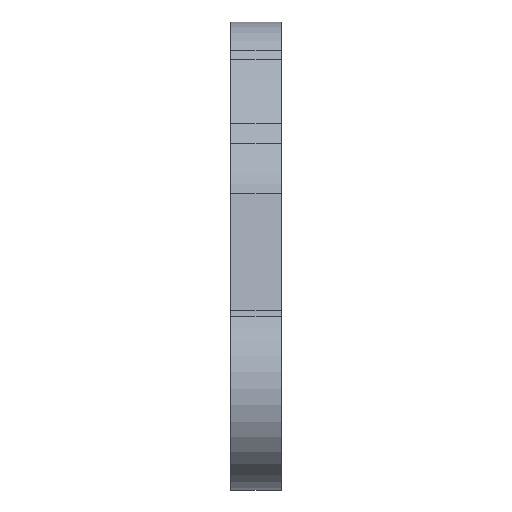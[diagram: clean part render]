
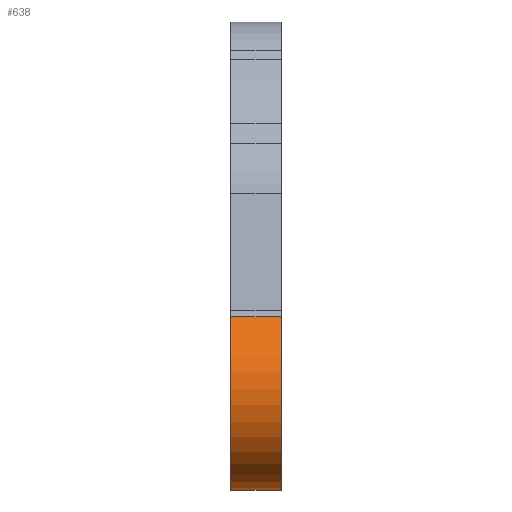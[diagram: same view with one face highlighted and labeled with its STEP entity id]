
A CAD part, top view. The second image highlights one B-rep face of the part: STEP entity #638.
In plain terms, the highlighted cylindrical face has radius 11.5 mm (diameter 23 mm), a partial arc.
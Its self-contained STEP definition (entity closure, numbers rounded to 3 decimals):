
#611=AXIS2_PLACEMENT_3D('Cylinder Axis2P3D',#608,#609,#610) ;
#615=AXIS2_PLACEMENT_3D('Circle Axis2P3D',#613,#614,$) ;
#629=AXIS2_PLACEMENT_3D('Circle Axis2P3D',#627,#628,$) ;
#582=CARTESIAN_POINT('Line Origine',(156.3,-183.21,-206.817)) ;
#586=CARTESIAN_POINT('Vertex',(159.3,-183.21,-206.817)) ;
#588=CARTESIAN_POINT('Vertex',(153.3,-183.21,-206.817)) ;
#608=CARTESIAN_POINT('Axis2P3D Location',(156.3,-192.389,-213.745)) ;
#613=CARTESIAN_POINT('Axis2P3D Location',(153.3,-192.389,-213.745)) ;
#617=CARTESIAN_POINT('Vertex',(153.3,-201.568,-220.674)) ;
#620=CARTESIAN_POINT('Line Origine',(156.3,-201.568,-220.674)) ;
#624=CARTESIAN_POINT('Vertex',(159.3,-201.568,-220.674)) ;
#627=CARTESIAN_POINT('Axis2P3D Location',(159.3,-192.389,-213.745)) ;
#583=DIRECTION('Vector Direction',(-1.,0.,0.)) ;
#609=DIRECTION('Axis2P3D Direction',(-1.,0.,0.)) ;
#610=DIRECTION('Axis2P3D XDirection',(0.,-0.798,-0.602)) ;
#614=DIRECTION('Axis2P3D Direction',(-1.,0.,0.)) ;
#621=DIRECTION('Vector Direction',(-1.,0.,0.)) ;
#628=DIRECTION('Axis2P3D Direction',(-1.,0.,0.)) ;
#584=VECTOR('Line Direction',#583,1.) ;
#622=VECTOR('Line Direction',#621,1.) ;
#633=ORIENTED_EDGE('',*,*,#590,.T.) ;
#634=ORIENTED_EDGE('',*,*,#619,.F.) ;
#635=ORIENTED_EDGE('',*,*,#626,.F.) ;
#636=ORIENTED_EDGE('',*,*,#631,.T.) ;
#638=ADVANCED_FACE('\X2\539F\X0\',(#637),#612,.T.) ;
#616=CIRCLE('generated circle',#615,11.5) ;
#630=CIRCLE('generated circle',#629,11.5) ;
#612=CYLINDRICAL_SURFACE('generated cylinder',#611,11.5) ;
#590=EDGE_CURVE('',#587,#589,#585,.T.) ;
#619=EDGE_CURVE('',#618,#589,#616,.T.) ;
#626=EDGE_CURVE('',#625,#618,#623,.T.) ;
#631=EDGE_CURVE('',#625,#587,#630,.T.) ;
#632=EDGE_LOOP('',(#633,#634,#635,#636)) ;
#637=FACE_OUTER_BOUND('',#632,.T.) ;
#585=LINE('Line',#582,#584) ;
#623=LINE('Line',#620,#622) ;
#587=VERTEX_POINT('',#586) ;
#589=VERTEX_POINT('',#588) ;
#618=VERTEX_POINT('',#617) ;
#625=VERTEX_POINT('',#624) ;
